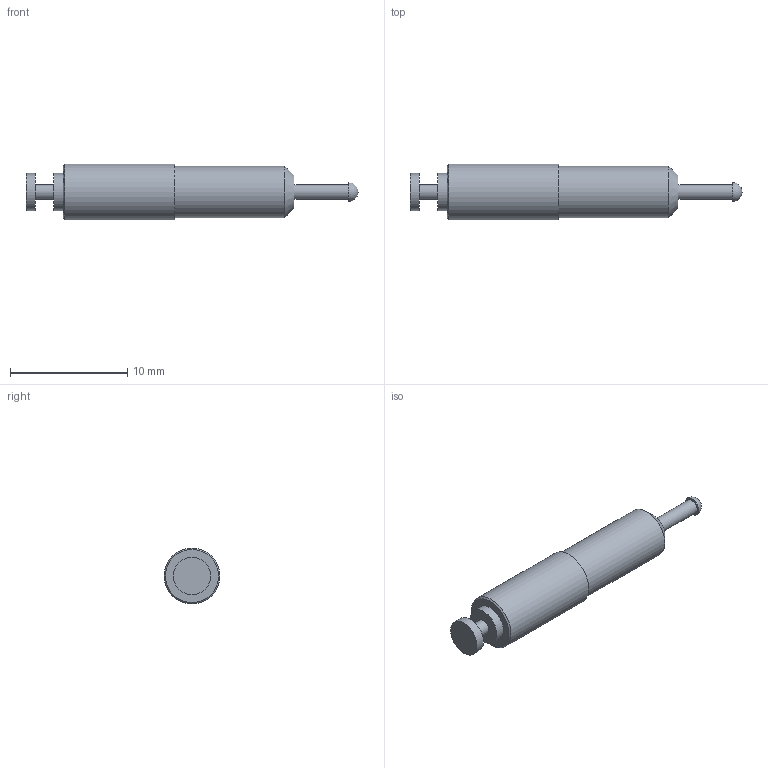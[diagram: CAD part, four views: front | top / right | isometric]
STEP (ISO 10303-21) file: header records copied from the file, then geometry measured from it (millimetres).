
FILE_DESCRIPTION(/* description */ (''),/* implementation_level */ '2;1');
FILE_NAME(/* name */ '\\Snap1\dwgs\Customer 3D Models\571\571-4233-01 Customer model.stp',/* time_stamp */ '2017-01-09T09:48:13+00:00',/* author */ ('paulk'),/* organization */ (''),/* preprocessor_version */ 'ST-DEVELOPER v15.2',/* originating_system */ 'Autodesk Inventor 2014',/* authorisation */ '');
FILE_SCHEMA (('CONFIG_CONTROL_DESIGN'));
Length unit declared in the file: millimetre
Products named in the file (1): 571-4233-01 Customer model
Bounding box: 28.32 x 4.78 x 4.78 mm (x, y, z)
Volume: 340.5 mm3; surface area: 367.5 mm2
Topology: 1 solids, 1 shells, 16 faces, 27 edges, 18 vertices
Faces by surface type: plane 7, cylinder 6, cone 2, sphere 1
Full cylindrical faces by diameter (mm): 1.27 x2, 3.175 x2, 4.369 x1, 4.775 x1
Entity records: 365 total; most frequent: DIRECTION 64, CARTESIAN_POINT 47, AXIS2_PLACEMENT_3D 32, EDGE_LOOP 30, ORIENTED_EDGE 30, FACE_BOUND 19, STYLED_ITEM 17, ADVANCED_FACE 16
